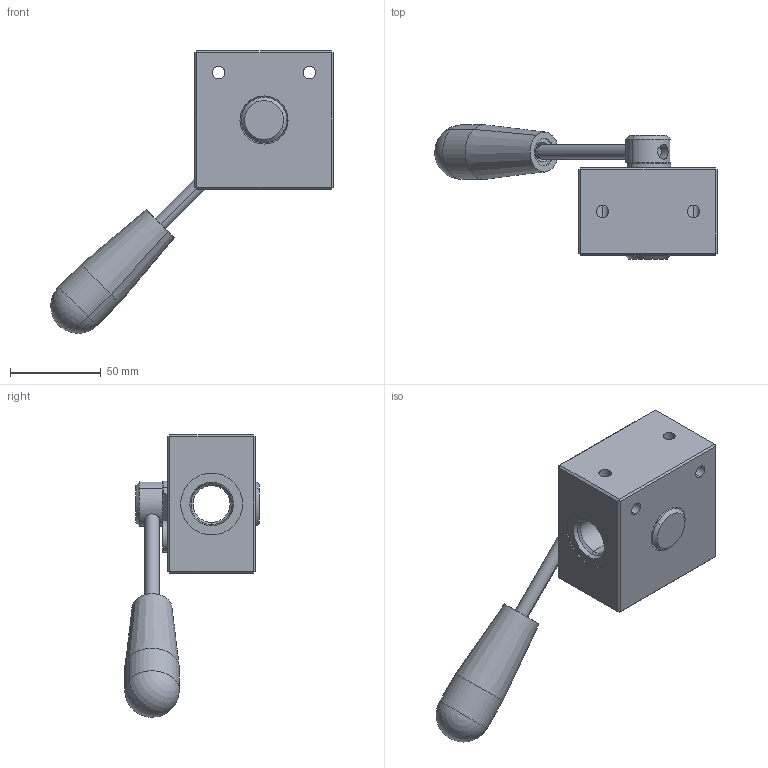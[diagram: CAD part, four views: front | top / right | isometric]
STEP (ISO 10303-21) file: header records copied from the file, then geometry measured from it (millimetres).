
FILE_DESCRIPTION (( 'STEP AP214' ), '1' );
FILE_NAME ('VSF78001.STEP', '2025-05-23T00:33:49', ( '' ), ( '' ), 'SwSTEP 2.0', 'SolidWorks 2023', '' );
FILE_SCHEMA (( 'AUTOMOTIVE_DESIGN' ));
Length unit declared in the file: millimetre
Products named in the file (1): VSF78001
Bounding box: 155.44 x 73.97 x 155.39 mm (x, y, z)
Surface area: 44323.6 mm2 (no closed solid volume)
Topology: 0 solids, 10 shells, 127 faces, 310 edges, 191 vertices
Faces by surface type: plane 50, cylinder 40, cone 35, sphere 2
Entity records: 4021 total; most frequent: CARTESIAN_POINT 995, DIRECTION 672, ORIENTED_EDGE 556, EDGE_CURVE 306, AXIS2_PLACEMENT_3D 254, VERTEX_POINT 189, LINE 164, VECTOR 164
